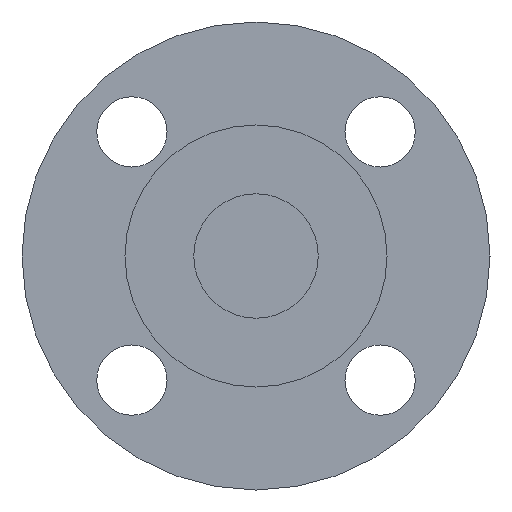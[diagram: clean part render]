
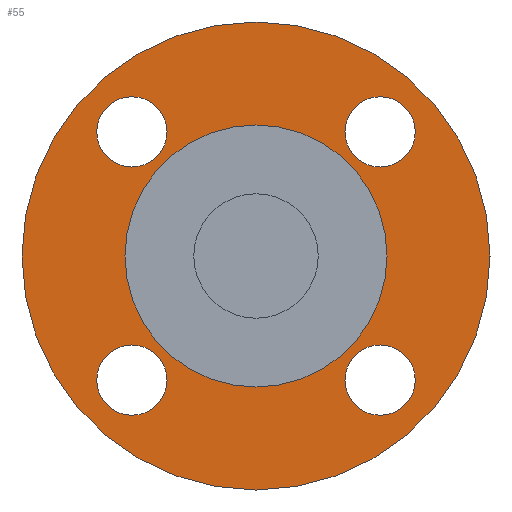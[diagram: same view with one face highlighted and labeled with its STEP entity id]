
A CAD part, left-side view. The second image highlights one B-rep face of the part: STEP entity #55.
In plain terms, the highlighted planar face has unit normal (-1, 0, 0).
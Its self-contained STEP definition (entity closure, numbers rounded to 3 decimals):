
#55=ADVANCED_FACE('',(#257,#258,#259,#260,#261,#262),#256,.T.);
#256=PLANE('',#810);
#257=FACE_OUTER_BOUND('',#811,.T.);
#258=FACE_BOUND('',#812,.T.);
#259=FACE_BOUND('',#813,.T.);
#260=FACE_BOUND('',#814,.T.);
#261=FACE_BOUND('',#815,.T.);
#262=FACE_BOUND('',#816,.T.);
#807=CARTESIAN_POINT('',(1.,-96.603,-110.));
#808=DIRECTION('',(-1.,0.,0.));
#809=DIRECTION('',(0.,0.,1.));
#810=AXIS2_PLACEMENT_3D('',#807,#808,#809);
#811=EDGE_LOOP('',(#1127,#1128));
#812=EDGE_LOOP('',(#1129,#1130));
#813=EDGE_LOOP('',(#1131,#1132));
#814=EDGE_LOOP('',(#1133,#1134));
#815=EDGE_LOOP('',(#1135,#1136));
#816=EDGE_LOOP('',(#1137,#1138));
#1127=ORIENTED_EDGE('',*,*,#1400,.T.);
#1128=ORIENTED_EDGE('',*,*,#1401,.T.);
#1129=ORIENTED_EDGE('',*,*,#1402,.F.);
#1130=ORIENTED_EDGE('',*,*,#1403,.F.);
#1131=ORIENTED_EDGE('',*,*,#1404,.F.);
#1132=ORIENTED_EDGE('',*,*,#1405,.F.);
#1133=ORIENTED_EDGE('',*,*,#1406,.F.);
#1134=ORIENTED_EDGE('',*,*,#1407,.F.);
#1135=ORIENTED_EDGE('',*,*,#1408,.F.);
#1136=ORIENTED_EDGE('',*,*,#1409,.F.);
#1137=ORIENTED_EDGE('',*,*,#1410,.F.);
#1138=ORIENTED_EDGE('',*,*,#1411,.F.);
#1400=EDGE_CURVE('',#1871,#1872,#1873,.T.);
#1401=EDGE_CURVE('',#1872,#1871,#1879,.T.);
#1402=EDGE_CURVE('',#1885,#1886,#1887,.T.);
#1403=EDGE_CURVE('',#1886,#1885,#1893,.T.);
#1404=EDGE_CURVE('',#1899,#1900,#1901,.T.);
#1405=EDGE_CURVE('',#1900,#1899,#1907,.T.);
#1406=EDGE_CURVE('',#1913,#1914,#1915,.T.);
#1407=EDGE_CURVE('',#1914,#1913,#1921,.T.);
#1408=EDGE_CURVE('',#1927,#1928,#1929,.T.);
#1409=EDGE_CURVE('',#1928,#1927,#1935,.T.);
#1410=EDGE_CURVE('',#1941,#1942,#1943,.T.);
#1411=EDGE_CURVE('',#1942,#1941,#1949,.T.);
#1871=VERTEX_POINT('',#2698);
#1872=VERTEX_POINT('',#2699);
#1873=CIRCLE('',#2703,50.);
#1879=CIRCLE('',#2707,50.);
#1885=VERTEX_POINT('',#2708);
#1886=VERTEX_POINT('',#2709);
#1887=CIRCLE('',#2713,7.5);
#1893=CIRCLE('',#2717,7.5);
#1899=VERTEX_POINT('',#2718);
#1900=VERTEX_POINT('',#2719);
#1901=CIRCLE('',#2723,7.5);
#1907=CIRCLE('',#2727,7.5);
#1913=VERTEX_POINT('',#2728);
#1914=VERTEX_POINT('',#2729);
#1915=CIRCLE('',#2733,7.5);
#1921=CIRCLE('',#2737,7.5);
#1927=VERTEX_POINT('',#2738);
#1928=VERTEX_POINT('',#2739);
#1929=CIRCLE('',#2743,28.);
#1935=CIRCLE('',#2747,28.);
#1941=VERTEX_POINT('',#2748);
#1942=VERTEX_POINT('',#2749);
#1943=CIRCLE('',#2753,7.5);
#1949=CIRCLE('',#2757,7.5);
#2698=CARTESIAN_POINT('',(1.,0.,50.));
#2699=CARTESIAN_POINT('',(1.,0.,-50.));
#2700=CARTESIAN_POINT('',(1.,0.,0.));
#2701=DIRECTION('',(-1.,0.,0.));
#2702=DIRECTION('',(0.,0.,1.));
#2703=AXIS2_PLACEMENT_3D('',#2700,#2701,#2702);
#2704=CARTESIAN_POINT('',(1.,0.,0.));
#2705=DIRECTION('',(-1.,0.,0.));
#2706=DIRECTION('',(0.,0.,1.));
#2707=AXIS2_PLACEMENT_3D('',#2704,#2705,#2706);
#2708=CARTESIAN_POINT('',(1.,26.517,34.017));
#2709=CARTESIAN_POINT('',(1.,26.517,19.017));
#2710=CARTESIAN_POINT('',(1.,26.517,26.517));
#2711=DIRECTION('',(-1.,0.,0.));
#2712=DIRECTION('',(0.,0.,-1.));
#2713=AXIS2_PLACEMENT_3D('',#2710,#2711,#2712);
#2714=CARTESIAN_POINT('',(1.,26.517,26.517));
#2715=DIRECTION('',(-1.,0.,0.));
#2716=DIRECTION('',(0.,0.,-1.));
#2717=AXIS2_PLACEMENT_3D('',#2714,#2715,#2716);
#2718=CARTESIAN_POINT('',(1.,26.517,-19.017));
#2719=CARTESIAN_POINT('',(1.,26.517,-34.017));
#2720=CARTESIAN_POINT('',(1.,26.517,-26.517));
#2721=DIRECTION('',(-1.,0.,0.));
#2722=DIRECTION('',(0.,0.,-1.));
#2723=AXIS2_PLACEMENT_3D('',#2720,#2721,#2722);
#2724=CARTESIAN_POINT('',(1.,26.517,-26.517));
#2725=DIRECTION('',(-1.,0.,0.));
#2726=DIRECTION('',(0.,0.,-1.));
#2727=AXIS2_PLACEMENT_3D('',#2724,#2725,#2726);
#2728=CARTESIAN_POINT('',(1.,-26.516,-19.017));
#2729=CARTESIAN_POINT('',(1.,-26.516,-34.017));
#2730=CARTESIAN_POINT('',(1.,-26.516,-26.517));
#2731=DIRECTION('',(-1.,0.,0.));
#2732=DIRECTION('',(0.,0.,-1.));
#2733=AXIS2_PLACEMENT_3D('',#2730,#2731,#2732);
#2734=CARTESIAN_POINT('',(1.,-26.516,-26.517));
#2735=DIRECTION('',(-1.,0.,0.));
#2736=DIRECTION('',(0.,0.,-1.));
#2737=AXIS2_PLACEMENT_3D('',#2734,#2735,#2736);
#2738=CARTESIAN_POINT('',(1.,0.,-28.));
#2739=CARTESIAN_POINT('',(1.,0.,28.));
#2740=CARTESIAN_POINT('',(1.,0.,0.));
#2741=DIRECTION('',(-1.,0.,0.));
#2742=DIRECTION('',(0.,0.,1.));
#2743=AXIS2_PLACEMENT_3D('',#2740,#2741,#2742);
#2744=CARTESIAN_POINT('',(1.,0.,0.));
#2745=DIRECTION('',(-1.,0.,0.));
#2746=DIRECTION('',(0.,0.,1.));
#2747=AXIS2_PLACEMENT_3D('',#2744,#2745,#2746);
#2748=CARTESIAN_POINT('',(1.,-26.516,34.017));
#2749=CARTESIAN_POINT('',(1.,-26.516,19.017));
#2750=CARTESIAN_POINT('',(1.,-26.516,26.517));
#2751=DIRECTION('',(-1.,0.,0.));
#2752=DIRECTION('',(0.,0.,-1.));
#2753=AXIS2_PLACEMENT_3D('',#2750,#2751,#2752);
#2754=CARTESIAN_POINT('',(1.,-26.516,26.517));
#2755=DIRECTION('',(-1.,0.,0.));
#2756=DIRECTION('',(0.,0.,-1.));
#2757=AXIS2_PLACEMENT_3D('',#2754,#2755,#2756);
